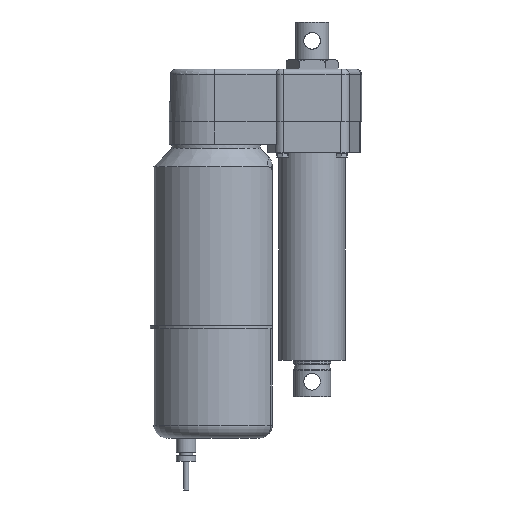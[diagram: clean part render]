
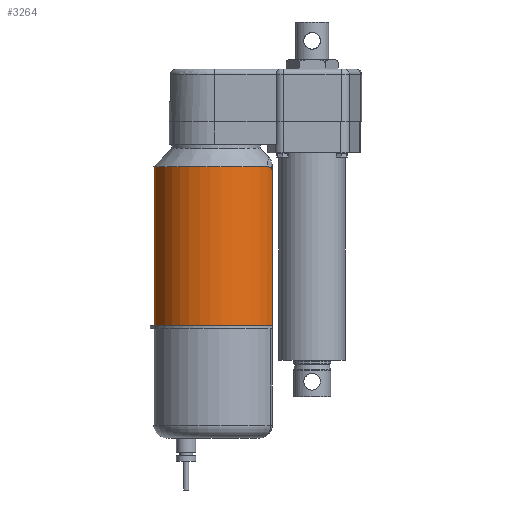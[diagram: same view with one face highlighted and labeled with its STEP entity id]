
A CAD part, left-side view. The second image highlights one B-rep face of the part: STEP entity #3264.
In plain terms, the highlighted cylindrical face has radius 48 mm (diameter 96 mm), a partial arc.
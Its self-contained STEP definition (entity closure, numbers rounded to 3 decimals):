
#213 = LINE ( 'NONE', #3803, #229 ) ;
#229 = VECTOR ( 'NONE', #3804, 1000. ) ;
#234 = LINE ( 'NONE', #3852, #243 ) ;
#243 = VECTOR ( 'NONE', #3853, 1000. ) ;
#245 = CIRCLE ( 'NONE', #1392, 48. ) ;
#249 = CIRCLE ( 'NONE', #1401, 48. ) ;
#655 = EDGE_CURVE ( 'NONE', #923, #925, #213, .T. ) ;
#663 = EDGE_CURVE ( 'NONE', #931, #918, #245, .T. ) ;
#665 = EDGE_CURVE ( 'NONE', #920, #928, #234, .T. ) ;
#667 = EDGE_CURVE ( 'NONE', #931, #920, #5896, .T. ) ;
#668 = EDGE_CURVE ( 'NONE', #928, #923, #249, .T. ) ;
#669 = EDGE_CURVE ( 'NONE', #925, #918, #5895, .T. ) ;
#918 = VERTEX_POINT ( 'NONE', #4472 ) ;
#920 = VERTEX_POINT ( 'NONE', #4474 ) ;
#923 = VERTEX_POINT ( 'NONE', #4477 ) ;
#925 = VERTEX_POINT ( 'NONE', #4479 ) ;
#928 = VERTEX_POINT ( 'NONE', #4482 ) ;
#931 = VERTEX_POINT ( 'NONE', #4485 ) ;
#1392 = AXIS2_PLACEMENT_3D ( 'NONE', #3822, #3823, #3824 ) ;
#1401 = AXIS2_PLACEMENT_3D ( 'NONE', #3857, #3877, #3878 ) ;
#1633 = AXIS2_PLACEMENT_3D ( 'NONE', #5258, #5257, #5256 ) ;
#2017 = FACE_OUTER_BOUND ( 'NONE', #2537, .T. ) ;
#2018 = CYLINDRICAL_SURFACE ( 'NONE', #1633, 48. ) ;
#2078 = ORIENTED_EDGE ( 'NONE', *, *, #663, .F. ) ;
#2079 = ORIENTED_EDGE ( 'NONE', *, *, #667, .T. ) ;
#2080 = ORIENTED_EDGE ( 'NONE', *, *, #665, .T. ) ;
#2081 = ORIENTED_EDGE ( 'NONE', *, *, #668, .T. ) ;
#2082 = ORIENTED_EDGE ( 'NONE', *, *, #655, .T. ) ;
#2083 = ORIENTED_EDGE ( 'NONE', *, *, #669, .T. ) ;
#2537 = EDGE_LOOP ( 'NONE', ( #2078, #2079, #2080, #2081, #2082, #2083 ) ) ;
#3264 = ADVANCED_FACE ( 'NONE', ( #2017 ), #2018, .T. ) ;
#3803 = CARTESIAN_POINT ( 'NONE',  ( -20.715, 30.6, 128.5 ) ) ;
#3804 = DIRECTION ( 'NONE',  ( 0., 0., 1. ) ) ;
#3822 = CARTESIAN_POINT ( 'NONE',  ( 0., 73.9, 53.5 ) ) ;
#3823 = DIRECTION ( 'NONE',  ( 0., 0., 1. ) ) ;
#3824 = DIRECTION ( 'NONE',  ( 0., -1., 0. ) ) ;
#3825 = CARTESIAN_POINT ( 'NONE',  ( 27.154, 34.308, 53.5 ) ) ;
#3852 = CARTESIAN_POINT ( 'NONE',  ( 20.715, 30.6, 128.5 ) ) ;
#3853 = DIRECTION ( 'NONE',  ( 0., 0., -1. ) ) ;
#3854 = CARTESIAN_POINT ( 'NONE',  ( 27.908, 34.847, 53.5 ) ) ;
#3857 = CARTESIAN_POINT ( 'NONE',  ( 0., 73.9, -69. ) ) ;
#3858 = CARTESIAN_POINT ( 'NONE',  ( 26.394, 33.798, 53.43 ) ) ;
#3859 = CARTESIAN_POINT ( 'NONE',  ( 25.248, 33.075, 53.187 ) ) ;
#3860 = CARTESIAN_POINT ( 'NONE',  ( 24.866, 32.84, 53.083 ) ) ;
#3861 = CARTESIAN_POINT ( 'NONE',  ( 24.101, 32.387, 52.814 ) ) ;
#3862 = CARTESIAN_POINT ( 'NONE',  ( 23.725, 32.171, 52.651 ) ) ;
#3863 = CARTESIAN_POINT ( 'NONE',  ( 22.996, 31.765, 52.253 ) ) ;
#3864 = CARTESIAN_POINT ( 'NONE',  ( 22.64, 31.573, 52.015 ) ) ;
#3865 = CARTESIAN_POINT ( 'NONE',  ( 22.153, 31.318, 51.594 ) ) ;
#3866 = CARTESIAN_POINT ( 'NONE',  ( 21.999, 31.238, 51.443 ) ) ;
#3867 = CARTESIAN_POINT ( 'NONE',  ( 21.708, 31.089, 51.116 ) ) ;
#3868 = CARTESIAN_POINT ( 'NONE',  ( 21.57, 31.019, 50.938 ) ) ;
#3869 = CARTESIAN_POINT ( 'NONE',  ( 21.325, 30.897, 50.564 ) ) ;
#3870 = CARTESIAN_POINT ( 'NONE',  ( 21.217, 30.844, 50.367 ) ) ;
#3871 = CARTESIAN_POINT ( 'NONE',  ( 21.03, 30.752, 49.954 ) ) ;
#3872 = CARTESIAN_POINT ( 'NONE',  ( 20.952, 30.714, 49.736 ) ) ;
#3873 = CARTESIAN_POINT ( 'NONE',  ( 20.769, 30.626, 49.07 ) ) ;
#3874 = CARTESIAN_POINT ( 'NONE',  ( 20.715, 30.6, 48.608 ) ) ;
#3875 = CARTESIAN_POINT ( 'NONE',  ( 20.715, 30.6, 48.141 ) ) ;
#3876 = CARTESIAN_POINT ( 'NONE',  ( -20.715, 30.6, 48.141 ) ) ;
#3877 = DIRECTION ( 'NONE',  ( 0., 0., 1. ) ) ;
#3878 = DIRECTION ( 'NONE',  ( 0., -1., 0. ) ) ;
#3880 = CARTESIAN_POINT ( 'NONE',  ( -20.715, 30.6, 48.607 ) ) ;
#3881 = CARTESIAN_POINT ( 'NONE',  ( -20.768, 30.625, 49.063 ) ) ;
#3882 = CARTESIAN_POINT ( 'NONE',  ( -20.949, 30.713, 49.727 ) ) ;
#3883 = CARTESIAN_POINT ( 'NONE',  ( -21.027, 30.751, 49.947 ) ) ;
#3884 = CARTESIAN_POINT ( 'NONE',  ( -21.213, 30.842, 50.361 ) ) ;
#3885 = CARTESIAN_POINT ( 'NONE',  ( -21.321, 30.895, 50.558 ) ) ;
#3886 = CARTESIAN_POINT ( 'NONE',  ( -21.565, 31.017, 50.931 ) ) ;
#3887 = CARTESIAN_POINT ( 'NONE',  ( -21.703, 31.086, 51.11 ) ) ;
#3888 = CARTESIAN_POINT ( 'NONE',  ( -21.994, 31.235, 51.438 ) ) ;
#3889 = CARTESIAN_POINT ( 'NONE',  ( -22.149, 31.315, 51.59 ) ) ;
#3890 = CARTESIAN_POINT ( 'NONE',  ( -22.634, 31.57, 52.011 ) ) ;
#3891 = CARTESIAN_POINT ( 'NONE',  ( -22.991, 31.762, 52.25 ) ) ;
#3892 = CARTESIAN_POINT ( 'NONE',  ( -23.718, 32.167, 52.648 ) ) ;
#3893 = CARTESIAN_POINT ( 'NONE',  ( -24.091, 32.381, 52.81 ) ) ;
#3894 = CARTESIAN_POINT ( 'NONE',  ( -24.85, 32.831, 53.078 ) ) ;
#3895 = CARTESIAN_POINT ( 'NONE',  ( -25.236, 33.067, 53.184 ) ) ;
#3896 = CARTESIAN_POINT ( 'NONE',  ( -26.391, 33.796, 53.43 ) ) ;
#3897 = CARTESIAN_POINT ( 'NONE',  ( -27.154, 34.308, 53.5 ) ) ;
#3898 = CARTESIAN_POINT ( 'NONE',  ( -27.908, 34.847, 53.5 ) ) ;
#4472 = CARTESIAN_POINT ( 'NONE',  ( -27.908, 34.847, 53.5 ) ) ;
#4474 = CARTESIAN_POINT ( 'NONE',  ( 20.715, 30.6, 48.141 ) ) ;
#4477 = CARTESIAN_POINT ( 'NONE',  ( -20.715, 30.6, -69. ) ) ;
#4479 = CARTESIAN_POINT ( 'NONE',  ( -20.715, 30.6, 48.141 ) ) ;
#4482 = CARTESIAN_POINT ( 'NONE',  ( 20.715, 30.6, -69. ) ) ;
#4485 = CARTESIAN_POINT ( 'NONE',  ( 27.908, 34.847, 53.5 ) ) ;
#5256 = DIRECTION ( 'NONE',  ( 0., -1., 0. ) ) ;
#5257 = DIRECTION ( 'NONE',  ( 0., 0., 1. ) ) ;
#5258 = CARTESIAN_POINT ( 'NONE',  ( 0., 73.9, 128.5 ) ) ;
#5895 = B_SPLINE_CURVE_WITH_KNOTS ( 'NONE', 3,
 ( #3876, #3880, #3881, #3882, #3883, #3884, #3885, #3886, #3887, #3888, #3889, #3890, #3891, #3892, #3893, #3894, #3895, #3896, #3897, #3898 ),
 .UNSPECIFIED., .F., .F.,
 ( 4, 2, 2, 2, 2, 2, 2, 2, 2, 4 ),
 ( 0., 0.001, 0.002, 0.003, 0.003, 0.004, 0.006, 0.007, 0.008, 0.011 ),
 .UNSPECIFIED. ) ;
#5896 = B_SPLINE_CURVE_WITH_KNOTS ( 'NONE', 3,
 ( #3854, #3825, #3858, #3859, #3860, #3861, #3862, #3863, #3864, #3865, #3866, #3867, #3868, #3869, #3870, #3871, #3872, #3873, #3874, #3875 ),
 .UNSPECIFIED., .F., .F.,
 ( 4, 2, 2, 2, 2, 2, 2, 2, 2, 4 ),
 ( 0., 0.003, 0.004, 0.006, 0.007, 0.008, 0.008, 0.009, 0.01, 0.011 ),
 .UNSPECIFIED. ) ;
